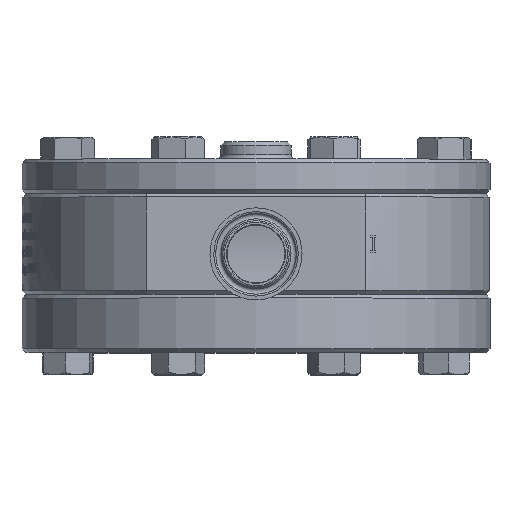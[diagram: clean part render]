
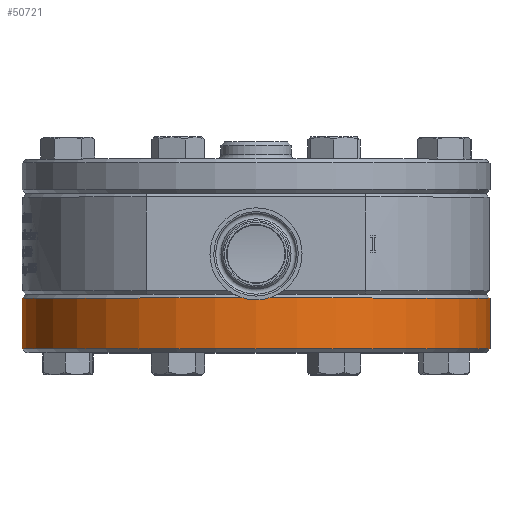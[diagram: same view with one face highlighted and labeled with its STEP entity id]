
A CAD part, top view. The second image highlights one B-rep face of the part: STEP entity #50721.
In plain terms, the highlighted cylindrical face has radius 63.5 mm (diameter 127 mm), a full revolution.
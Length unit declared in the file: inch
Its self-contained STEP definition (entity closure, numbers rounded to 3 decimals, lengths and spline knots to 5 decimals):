
#2219=CIRCLE('',#53566,2.5);
#2220=CIRCLE('',#53567,2.5);
#2222=CIRCLE('',#53571,2.5);
#2223=CIRCLE('',#53572,2.5);
#5449=LINE('',#111314,#9960);
#9960=VECTOR('',#61403,2.5);
#15187=FACE_OUTER_BOUND('',#18200,.T.);
#18200=EDGE_LOOP('',(#43915,#43916,#43917,#43918,#43919,#43920));
#24438=VERTEX_POINT('',#111293);
#24439=VERTEX_POINT('',#111294);
#24445=VERTEX_POINT('',#111310);
#24446=VERTEX_POINT('',#111311);
#31144=EDGE_CURVE('',#24438,#24439,#2219,.T.);
#31145=EDGE_CURVE('',#24439,#24438,#2220,.T.);
#31152=EDGE_CURVE('',#24445,#24446,#2222,.T.);
#31153=EDGE_CURVE('',#24446,#24445,#2223,.T.);
#31154=EDGE_CURVE('',#24446,#24439,#5449,.T.);
#43915=ORIENTED_EDGE('',*,*,#31152,.F.);
#43916=ORIENTED_EDGE('',*,*,#31153,.F.);
#43917=ORIENTED_EDGE('',*,*,#31154,.T.);
#43918=ORIENTED_EDGE('',*,*,#31144,.F.);
#43919=ORIENTED_EDGE('',*,*,#31145,.F.);
#43920=ORIENTED_EDGE('',*,*,#31154,.F.);
#48791=CYLINDRICAL_SURFACE('',#53570,2.5);
#50721=ADVANCED_FACE('',(#15187),#48791,.T.);
#53566=AXIS2_PLACEMENT_3D('',#111295,#61384,#61385);
#53567=AXIS2_PLACEMENT_3D('',#111296,#61386,#61387);
#53570=AXIS2_PLACEMENT_3D('',#111309,#61397,#61398);
#53571=AXIS2_PLACEMENT_3D('',#111312,#61399,#61400);
#53572=AXIS2_PLACEMENT_3D('',#111313,#61401,#61402);
#61384=DIRECTION('center_axis',(0.,1.,0.));
#61385=DIRECTION('ref_axis',(0.,0.,
-1.));
#61386=DIRECTION('center_axis',(0.,1.,0.));
#61387=DIRECTION('ref_axis',(0.,0.,
-1.));
#61397=DIRECTION('center_axis',(0.,-1.,0.));
#61398=DIRECTION('ref_axis',(0.,0.,
1.));
#61399=DIRECTION('center_axis',(0.,-1.,0.));
#61400=DIRECTION('ref_axis',(0.,0.,
-1.));
#61401=DIRECTION('center_axis',(0.,-1.,0.));
#61402=DIRECTION('ref_axis',(0.,0.,
-1.));
#61403=DIRECTION('',(0.,1.,0.));
#111293=CARTESIAN_POINT('',(0.,-0.04,2.5));
#111294=CARTESIAN_POINT('',(0.,-0.04,-2.5));
#111295=CARTESIAN_POINT('Origin',(0.,-0.04,
0.));
#111296=CARTESIAN_POINT('Origin',(0.,-0.04,
0.));
#111309=CARTESIAN_POINT('Origin',(0.,-0.3105,
0.));
#111310=CARTESIAN_POINT('',(0.,-0.581,2.5));
#111311=CARTESIAN_POINT('',(0.,-0.581,-2.5));
#111312=CARTESIAN_POINT('Origin',(0.,-0.581,
0.));
#111313=CARTESIAN_POINT('Origin',(0.,-0.581,
0.));
#111314=CARTESIAN_POINT('',(0.,-0.3105,-2.5));
